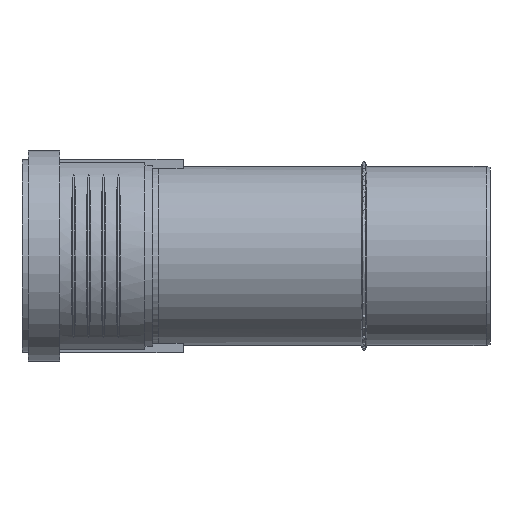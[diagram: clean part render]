
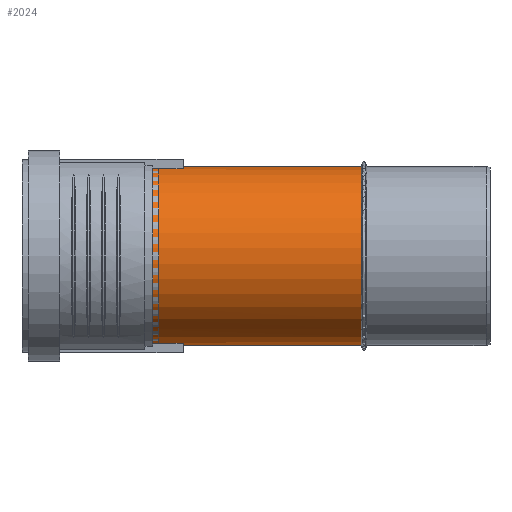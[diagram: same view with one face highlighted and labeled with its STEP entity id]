
A CAD part, left-side view. The second image highlights one B-rep face of the part: STEP entity #2024.
In plain terms, the highlighted cylindrical face has radius 45.1 mm (diameter 90.2 mm), a partial arc.
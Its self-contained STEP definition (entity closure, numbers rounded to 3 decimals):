
#262=CYLINDRICAL_SURFACE($,#2164,45.1);
#491=B_SPLINE_CURVE_WITH_KNOTS($,3,(#3021,#3022,#3023,#3024,#3025,#3026,
#3027,#3028,#3029,#3030,#3031,#3032,#3033,#3034,#3035,#3036,#3037,#3038,
#3039,#3040,#3041,#3042,#3043,#3044,#3045,#3046,#3047,#3048,#3049,#3050,
#3051,#3052,#3053),.UNSPECIFIED.,.F.,.F.,(4,2,2,2,2,2,2,2,3,2,2,2,2,2,2,
4),(-5.525,-5.26,-4.528,-3.796,
-3.064,-2.298,-1.532,-0.766,
0.,1.343,2.685,4.164,5.643,
6.574,7.505,8.037),.UNSPECIFIED.);
#492=B_SPLINE_CURVE_WITH_KNOTS($,3,(#3055,#3056,#3057,#3058,#3059,#3060),
 .UNSPECIFIED.,.F.,.F.,(4,2,4),(6.01,6.079,6.199),
 .UNSPECIFIED.);
#493=B_SPLINE_CURVE_WITH_KNOTS($,3,(#3064,#3065,#3066,#3067,#3068,#3069),
 .UNSPECIFIED.,.F.,.F.,(4,2,4),(7.003,7.123,7.192),
 .UNSPECIFIED.);
#494=B_SPLINE_CURVE_WITH_KNOTS($,3,(#3070,#3071,#3072,#3073,#3074,#3075,
#3076,#3077,#3078,#3079,#3080,#3081,#3082,#3083,#3084,#3085,#3086,#3087,
#3088,#3089,#3090,#3091,#3092,#3093,#3094,#3095,#3096,#3097,#3098,#3099,
#3100,#3101),.UNSPECIFIED.,.F.,.F.,(4,2,2,2,2,2,2,2,2,2,2,2,2,2,2,4),(-20.021,
-19.488,-18.557,-17.627,-16.147,
-14.668,-13.326,-11.983,-11.217,
-10.451,-9.685,-8.92,-8.188,
-7.456,-6.724,-6.459),.UNSPECIFIED.);
#598=FACE_OUTER_BOUND($,#718,.T.);
#718=EDGE_LOOP($,(#1478,#1479,#1480,#1481,#1482,#1483));
#892=CIRCLE($,#2160,45.1);
#894=CIRCLE($,#2165,45.1);
#990=VERTEX_POINT($,#3002);
#991=VERTEX_POINT($,#3003);
#993=VERTEX_POINT($,#3020);
#994=VERTEX_POINT($,#3054);
#995=VERTEX_POINT($,#3061);
#996=VERTEX_POINT($,#3063);
#1196=EDGE_CURVE($,#991,#990,#892,.T.);
#1198=EDGE_CURVE($,#990,#993,#491,.T.);
#1199=EDGE_CURVE($,#993,#994,#492,.T.);
#1200=EDGE_CURVE($,#994,#995,#894,.T.);
#1201=EDGE_CURVE($,#995,#996,#493,.T.);
#1202=EDGE_CURVE($,#996,#991,#494,.T.);
#1478=ORIENTED_EDGE($,*,*,#1196,.T.);
#1479=ORIENTED_EDGE($,*,*,#1198,.T.);
#1480=ORIENTED_EDGE($,*,*,#1199,.T.);
#1481=ORIENTED_EDGE($,*,*,#1200,.T.);
#1482=ORIENTED_EDGE($,*,*,#1201,.T.);
#1483=ORIENTED_EDGE($,*,*,#1202,.T.);
#2024=ADVANCED_FACE($,(#598),#262,.T.);
#2160=AXIS2_PLACEMENT_3D($,#3014,#2403,#2404);
#2164=AXIS2_PLACEMENT_3D($,#3019,#2411,#2412);
#2165=AXIS2_PLACEMENT_3D($,#3062,#2413,#2414);
#2403=DIRECTION('center_axis',(0.,1.,0.));
#2404=DIRECTION('ref_axis',(1.,0.,0.));
#2411=DIRECTION('center_axis',(0.,1.,0.));
#2412=DIRECTION('ref_axis',(1.,0.,0.));
#2413=DIRECTION('center_axis',(0.,-1.,0.));
#2414=DIRECTION('ref_axis',(1.,0.,0.));
#3002=CARTESIAN_POINT('',(44.85,64.85,4.74));
#3003=CARTESIAN_POINT('',(44.85,64.85,-4.74));
#3014=CARTESIAN_POINT('Origin',(0.,64.85,0.));
#3019=CARTESIAN_POINT('Origin',(0.,0.,0.));
#3020=CARTESIAN_POINT('',(44.725,170.012,5.804));
#3021=CARTESIAN_POINT('Ctrl Pts',(44.85,64.85,4.74));
#3022=CARTESIAN_POINT('Ctrl Pts',(44.755,64.917,5.645));
#3023=CARTESIAN_POINT('Ctrl Pts',(44.631,65.004,6.552));
#3024=CARTESIAN_POINT('Ctrl Pts',(44.06,65.407,9.956));
#3025=CARTESIAN_POINT('Ctrl Pts',(43.424,65.86,12.435));
#3026=CARTESIAN_POINT('Ctrl Pts',(41.777,67.084,17.176));
#3027=CARTESIAN_POINT('Ctrl Pts',(40.764,67.857,19.441));
#3028=CARTESIAN_POINT('Ctrl Pts',(38.495,69.713,23.617));
#3029=CARTESIAN_POINT('Ctrl Pts',(37.24,70.797,25.528));
#3030=CARTESIAN_POINT('Ctrl Pts',(34.633,73.3,28.973));
#3031=CARTESIAN_POINT('Ctrl Pts',(33.188,74.818,30.601));
#3032=CARTESIAN_POINT('Ctrl Pts',(30.412,78.354,33.361));
#3033=CARTESIAN_POINT('Ctrl Pts',(29.09,80.378,34.492));
#3034=CARTESIAN_POINT('Ctrl Pts',(26.945,84.855,36.192));
#3035=CARTESIAN_POINT('Ctrl Pts',(26.124,87.328,36.769));
#3036=CARTESIAN_POINT('Ctrl Pts',(25.108,92.452,37.47));
#3037=CARTESIAN_POINT('Ctrl Pts',(24.905,95.102,37.6));
#3038=CARTESIAN_POINT('Ctrl Pts',(24.905,97.655,37.6));
#3039=CARTESIAN_POINT('Ctrl Pts',(24.905,102.13,37.6));
#3040=CARTESIAN_POINT('Ctrl Pts',(25.522,106.95,37.201));
#3041=CARTESIAN_POINT('Ctrl Pts',(27.341,116.451,35.885));
#3042=CARTESIAN_POINT('Ctrl Pts',(28.532,121.133,34.962));
#3043=CARTESIAN_POINT('Ctrl Pts',(30.985,129.955,32.815));
#3044=CARTESIAN_POINT('Ctrl Pts',(32.52,134.938,31.341));
#3045=CARTESIAN_POINT('Ctrl Pts',(35.667,144.603,27.707));
#3046=CARTESIAN_POINT('Ctrl Pts',(37.275,149.284,25.541));
#3047=CARTESIAN_POINT('Ctrl Pts',(39.604,155.914,21.648));
#3048=CARTESIAN_POINT('Ctrl Pts',(40.572,158.629,19.826));
#3049=CARTESIAN_POINT('Ctrl Pts',(42.365,163.591,15.634));
#3050=CARTESIAN_POINT('Ctrl Pts',(43.186,165.835,13.257));
#3051=CARTESIAN_POINT('Ctrl Pts',(44.16,168.484,9.279));
#3052=CARTESIAN_POINT('Ctrl Pts',(44.493,169.385,7.593));
#3053=CARTESIAN_POINT('Ctrl Pts',(44.725,170.012,5.804));
#3054=CARTESIAN_POINT('',(44.924,170.55,3.979));
#3055=CARTESIAN_POINT('Ctrl Pts',(44.725,170.012,5.804));
#3056=CARTESIAN_POINT('Ctrl Pts',(44.754,170.089,5.584));
#3057=CARTESIAN_POINT('Ctrl Pts',(44.781,170.162,5.363));
#3058=CARTESIAN_POINT('Ctrl Pts',(44.85,170.35,4.757));
#3059=CARTESIAN_POINT('Ctrl Pts',(44.89,170.457,4.369));
#3060=CARTESIAN_POINT('Ctrl Pts',(44.924,170.55,3.979));
#3061=CARTESIAN_POINT('',(44.924,170.55,-3.979));
#3062=CARTESIAN_POINT('Origin',(0.,170.55,0.));
#3063=CARTESIAN_POINT('',(44.725,170.012,-5.804));
#3064=CARTESIAN_POINT('Ctrl Pts',(44.924,170.55,-3.979));
#3065=CARTESIAN_POINT('Ctrl Pts',(44.89,170.457,-4.369));
#3066=CARTESIAN_POINT('Ctrl Pts',(44.85,170.35,-4.757));
#3067=CARTESIAN_POINT('Ctrl Pts',(44.781,170.162,-5.363));
#3068=CARTESIAN_POINT('Ctrl Pts',(44.754,170.089,-5.584));
#3069=CARTESIAN_POINT('Ctrl Pts',(44.725,170.012,-5.804));
#3070=CARTESIAN_POINT('Ctrl Pts',(44.725,170.012,-5.804));
#3071=CARTESIAN_POINT('Ctrl Pts',(44.493,169.385,-7.593));
#3072=CARTESIAN_POINT('Ctrl Pts',(44.16,168.484,-9.279));
#3073=CARTESIAN_POINT('Ctrl Pts',(43.186,165.835,-13.257));
#3074=CARTESIAN_POINT('Ctrl Pts',(42.365,163.591,-15.634));
#3075=CARTESIAN_POINT('Ctrl Pts',(40.572,158.629,-19.826));
#3076=CARTESIAN_POINT('Ctrl Pts',(39.604,155.914,-21.648));
#3077=CARTESIAN_POINT('Ctrl Pts',(37.275,149.284,-25.541));
#3078=CARTESIAN_POINT('Ctrl Pts',(35.667,144.603,-27.707));
#3079=CARTESIAN_POINT('Ctrl Pts',(32.52,134.938,-31.341));
#3080=CARTESIAN_POINT('Ctrl Pts',(30.985,129.955,-32.815));
#3081=CARTESIAN_POINT('Ctrl Pts',(28.532,121.133,-34.962));
#3082=CARTESIAN_POINT('Ctrl Pts',(27.341,116.451,-35.885));
#3083=CARTESIAN_POINT('Ctrl Pts',(25.522,106.95,-37.201));
#3084=CARTESIAN_POINT('Ctrl Pts',(24.905,102.13,-37.6));
#3085=CARTESIAN_POINT('Ctrl Pts',(24.905,95.102,-37.6));
#3086=CARTESIAN_POINT('Ctrl Pts',(25.108,92.452,-37.47));
#3087=CARTESIAN_POINT('Ctrl Pts',(26.124,87.328,-36.769));
#3088=CARTESIAN_POINT('Ctrl Pts',(26.945,84.855,-36.192));
#3089=CARTESIAN_POINT('Ctrl Pts',(29.09,80.378,-34.492));
#3090=CARTESIAN_POINT('Ctrl Pts',(30.412,78.354,-33.361));
#3091=CARTESIAN_POINT('Ctrl Pts',(33.188,74.818,-30.601));
#3092=CARTESIAN_POINT('Ctrl Pts',(34.633,73.3,-28.973));
#3093=CARTESIAN_POINT('Ctrl Pts',(37.24,70.797,-25.528));
#3094=CARTESIAN_POINT('Ctrl Pts',(38.495,69.713,-23.617));
#3095=CARTESIAN_POINT('Ctrl Pts',(40.764,67.857,-19.441));
#3096=CARTESIAN_POINT('Ctrl Pts',(41.777,67.084,-17.176));
#3097=CARTESIAN_POINT('Ctrl Pts',(43.424,65.86,-12.435));
#3098=CARTESIAN_POINT('Ctrl Pts',(44.06,65.407,-9.956));
#3099=CARTESIAN_POINT('Ctrl Pts',(44.631,65.004,-6.552));
#3100=CARTESIAN_POINT('Ctrl Pts',(44.755,64.917,-5.645));
#3101=CARTESIAN_POINT('Ctrl Pts',(44.85,64.85,-4.74));
